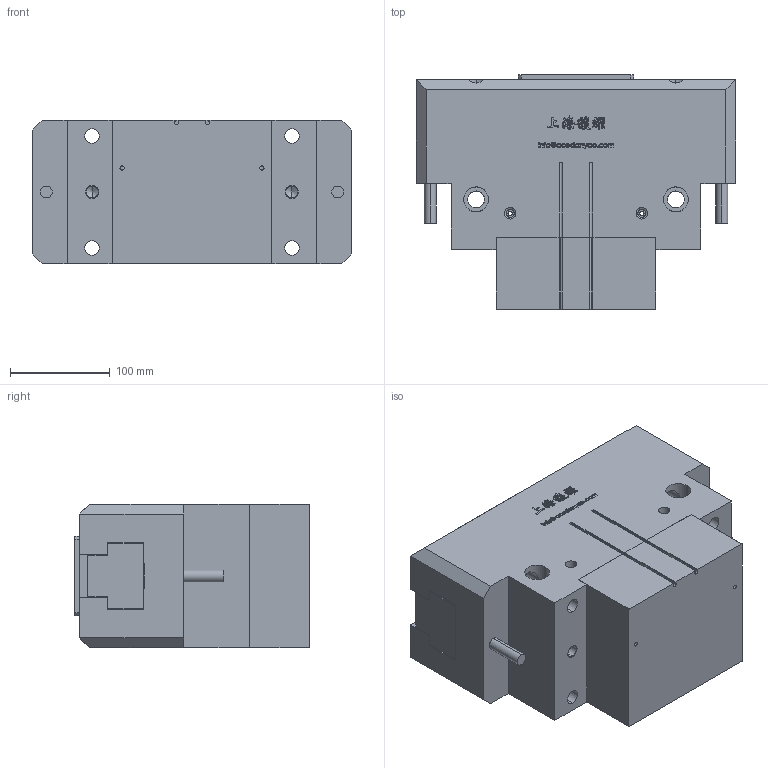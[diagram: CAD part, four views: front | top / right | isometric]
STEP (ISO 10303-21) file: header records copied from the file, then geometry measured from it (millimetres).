
FILE_DESCRIPTION (( 'STEP AP203' ), '1' );
FILE_NAME ('OPP2-320-C2-MC&MA-原始檔-組合-W106.04.19.STEP', '2017-04-19T07:03:03', ( 'DanyaoCAD' ), ( '' ), 'SwSTEP 2.0', 'SolidWorks 2016', '' );
FILE_SCHEMA (( 'CONFIG_CONTROL_DESIGN' ));
Products named in the file (5): Coperchio; Griffa; Fondello; Corpo; OPP2-320-C2-MC&MA-原始檔-組合-W106.04.19
Assembly tree (5 placements, depth 2):
  OPP2-320-C2-MC&MA-原始檔-組合-W106.04.19
    Coperchio
    Griffa  x2
    Fondello
    Corpo
Bounding box: 320 x 235 x 144 mm (x, y, z)
Volume: 8015843.3 mm3; surface area: 557739.4 mm2
Topology: 5 solids, 5 shells, 1101 faces, 3052 edges, 1998 vertices
Faces by surface type: bspline 640, plane 293, cylinder 112, cone 56
Entity records: 51070 total; most frequent: CARTESIAN_POINT 27864, ORIENTED_EDGE 5818, EDGE_CURVE 2909, DIRECTION 2667, VERTEX_POINT 1924, LINE 1373, VECTOR 1373, B_SPLINE_CURVE_WITH_KNOTS 1304
